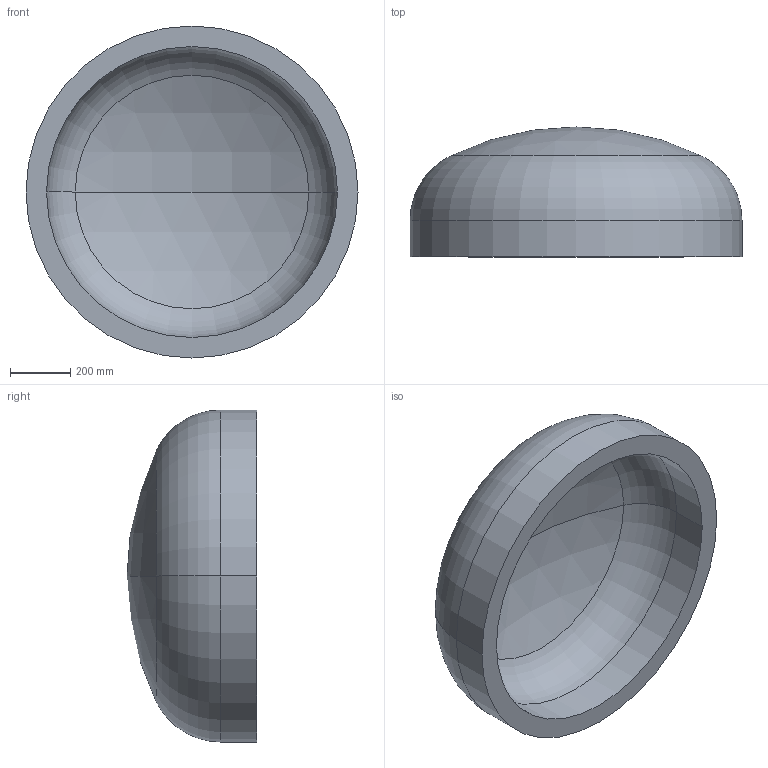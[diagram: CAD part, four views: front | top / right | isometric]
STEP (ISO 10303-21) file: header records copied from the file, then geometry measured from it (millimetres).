
FILE_DESCRIPTION (( 'STEP AP203' ), '1' );
FILE_NAME ('DIN 28013 Korbbogenform_-_Boden DIN 28013 - 1100 x 120 - I - s=68.step', '2016-07-01T09:12:03', ( '' ), ( '' ), 'SwSTEP 2.0', 'SolidWorks 2013', '' );
FILE_SCHEMA (( 'CONFIG_CONTROL_DESIGN' ));
Length unit declared in the file: millimetre
Products named in the file (1): DIN 28013 Korbbogenform_-_Boden DIN 28013 - 1100 x 120 - I - s=68
Bounding box: 1100 x 430.23 x 1100 mm (x, y, z)
Volume: 109245102.9 mm3; surface area: 3443239.5 mm2
Topology: 1 solids, 1 shells, 13 faces, 24 edges, 14 vertices
Faces by surface type: torus 4, cylinder 4, sphere 4, plane 1
Entity records: 407 total; most frequent: DIRECTION 72, CARTESIAN_POINT 52, ORIENTED_EDGE 48, AXIS2_PLACEMENT_3D 34, EDGE_CURVE 24, CIRCLE 20, EDGE_LOOP 14, VERTEX_POINT 14
